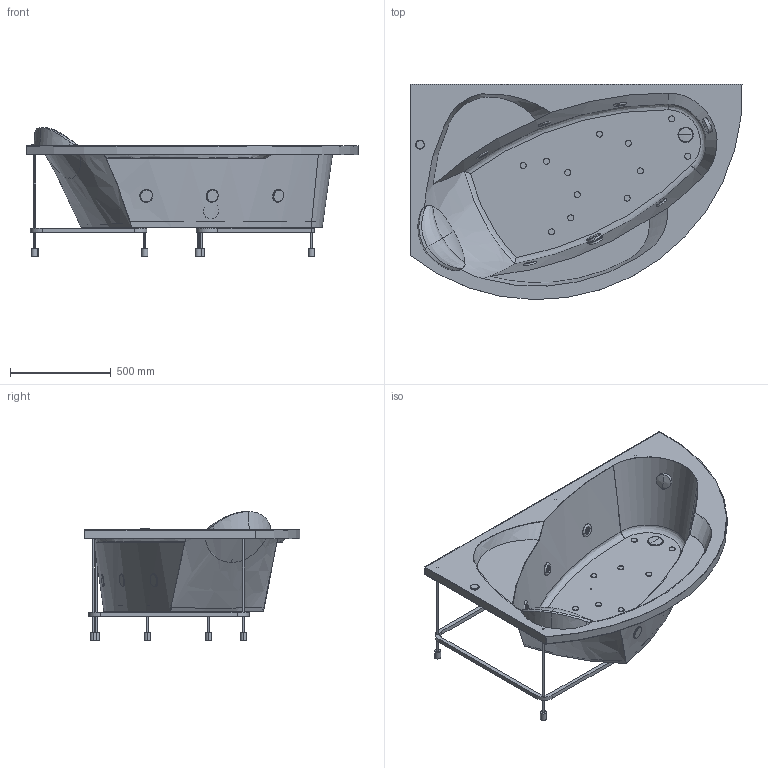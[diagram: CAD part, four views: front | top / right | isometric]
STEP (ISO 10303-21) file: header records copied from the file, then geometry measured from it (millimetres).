
FILE_DESCRIPTION(('STEP AP203'),'2;1');
FILE_NAME('VOG 4 16585 P S.stp','2015-07-24T16:37:52',(''),(''),'2014.1.117','THINKDESIGN','');
FILE_SCHEMA(('CONFIG_CONTROL_DESIGN'));
Bounding box: 1650 x 1069.88 x 640.5 mm (x, y, z)
Volume: 14277078.7 mm3; surface area: 6383548.4 mm2
Topology: 26 solids, 26 shells, 398 faces, 823 edges, 491 vertices
Faces by surface type: bspline 154, plane 122, cylinder 122
Entity records: 41016 total; most frequent: CARTESIAN_POINT 33075, DIRECTION 1633, ORIENTED_EDGE 1578, EDGE_CURVE 789, AXIS2_PLACEMENT_3D 698, VERTEX_POINT 491, CIRCLE 454, EDGE_LOOP 450
